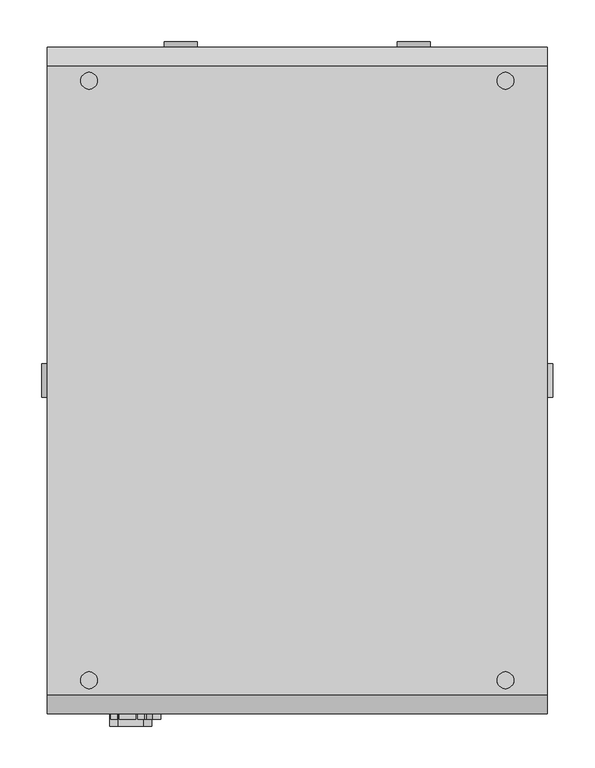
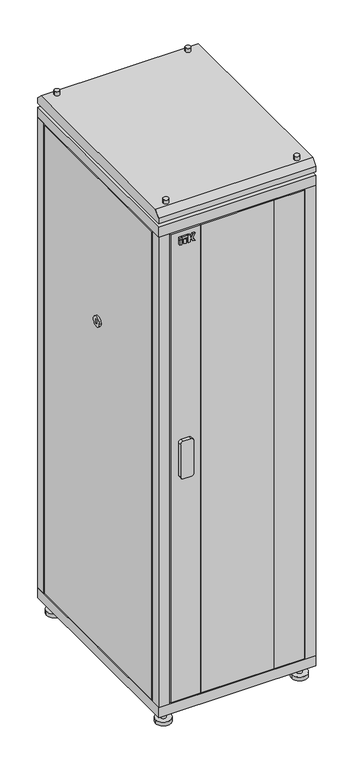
"""IFC4 building model written with IfcOpenShell, lengths in millimetres: proxy geometry, Шкафы ITK серия N_05 : LN05-42U68-G."""

from ifc_helpers import new_model, si_unit, point, frame, frame_2d, origin, origin_with_axes, place, context, project, spatial, polyline, circle_curve, trimmed, segment, composite_curve, outline, extrude, faceted_brep, source, transform, mapped, element, save
from ifc_brep_helpers import plane_surface, cylinder_surface, advanced_brep


def electrical_fixtures_49b3f98a(model_context):
    return source(origin(), model_context, "Body", "SolidModel", [
        extrude(outline(polyline([(-215.9746193, -407.0), (-224.197592, -407.0), (-224.197592, -400.0), (-215.9746193, -400.0), (-215.9746193, -407.0)])), frame((0.0, 0.0, 1935.0), z_axis=(0.0, 0.0, 1.0), x_axis=(1.0, 0.0, 0.0)), (0.0, 0.0, 1.0), 18.8087618),
        extrude(outline(polyline([(-199.9605777, -407.0), (-207.7053315, -407.0), (-207.7053315, -400.0), (-199.9605777, -400.0), (-199.9605777, -407.0)])), frame((0.0, 0.0, 1935.0), z_axis=(0.0, 0.0, 1.0), x_axis=(1.0, 0.0, 0.0)), (0.0, 0.0, 1.0), 18.8087618),
        extrude(outline(polyline([(-215.9746193, -407.0), (-224.197592, -407.0), (-224.197592, -400.0), (-215.9746193, -400.0), (-215.9746193, -407.0)])), frame((0.0, 0.0, 1956.4305892), z_axis=(0.0, 0.0, 1.0), x_axis=(1.0, 0.0, 0.0)), (0.0, 0.0, 1.0), 7.9794747),
        extrude(outline(polyline([(1935.0, -191.5184175), (1935.0, -183.7669278), (1946.0271455, -183.7669278), (1946.0271455, -180.8031229), (1935.0, -173.6420108), (1935.0, -164.197592), (1949.7278745, -174.8980192), (1964.410064, -164.197592), (1964.410064, -173.6420108), (1953.3829184, -180.8031229), (1953.3829184, -183.7669278), (1964.410064, -183.7669278), (1964.410064, -191.5184175), (1935.0, -191.5184175)])), frame((0.0, -407.0, 0.0), z_axis=(0.0, 1.0, 0.0), x_axis=(0.0, 0.0, 1.0)), (0.0, 0.0, 1.0), 7.0),
        extrude(outline(polyline([(-194.0851324, -407.0), (-213.5807768, -407.0), (-213.5807768, -400.0), (-194.0851324, -400.0), (-194.0851324, -407.0)])), frame((0.0, 0.0, 1956.4305892), z_axis=(0.0, 0.0, 1.0), x_axis=(1.0, 0.0, 0.0)), (0.0, 0.0, 1.0), 7.9794747),
        extrude(outline(composite_curve([segment(polyline([(1145.0, -185.0), (1145.0, -215.0)]), True, "CONTINUOUS"), segment(trimmed(circle_curve(frame_2d((1135.0, -215.0)), 10.0), [point((1145.0, -215.0))], [point((1135.0, -225.0))], False, "CARTESIAN"), True, "CONTINUOUS"), segment(polyline([(1135.0, -225.0), (1005.0, -225.0)]), True, "CONTINUOUS"), segment(trimmed(circle_curve(frame_2d((1005.0, -215.0)), 10.0), [point((1005.0, -225.0))], [point((995.0, -215.0))], False, "CARTESIAN"), True, "CONTINUOUS"), segment(polyline([(995.0, -215.0), (995.0, -185.0)]), True, "CONTINUOUS"), segment(trimmed(circle_curve(frame_2d((1005.0, -185.0)), 10.0), [point((995.0, -185.0))], [point((1005.0, -175.0))], False, "CARTESIAN"), True, "CONTINUOUS"), segment(polyline([(1005.0, -175.0), (1135.0, -175.0)]), True, "CONTINUOUS"), segment(trimmed(circle_curve(frame_2d((1135.0, -185.0)), 10.0), [point((1135.0, -175.0))], [point((1145.0, -185.0))], False, "CARTESIAN"), True, "CONTINUOUS")], self_intersect=False)), frame((0.0, -415.0, 0.0), z_axis=(0.0, 1.0, 0.0), x_axis=(0.0, 0.0, 1.0)), (0.0, 0.0, 1.0), 15.0),
        extrude(outline(polyline([(140.0, -380.0), (140.0, -400.0), (-140.0, -400.0), (-140.0, -380.0), (140.0, -380.0)])), frame((0.0, 0.0, 95.0), z_axis=(0.0, 0.0, 1.0), x_axis=(1.0, 0.0, 0.0)), (0.0, 0.0, 1.0), 1890.0),
        extrude(outline(polyline([(255.0, -380.0), (255.0, -400.0), (140.0, -400.0), (140.0, -380.0), (235.0, -380.0), (235.0, -365.0), (245.0, -365.0), (245.0, -380.0), (255.0, -380.0)])), frame((0.0, 0.0, 95.0), z_axis=(0.0, 0.0, 1.0), x_axis=(1.0, 0.0, 0.0)), (0.0, 0.0, 1.0), 1890.0),
        extrude(outline(polyline([(-140.0, -400.0), (-255.0, -400.0), (-255.0, -380.0), (-245.0, -380.0), (-245.0, -365.0), (-235.0, -365.0), (-235.0, -380.0), (-140.0, -380.0), (-140.0, -400.0)])), frame((0.0, 0.0, 95.0), z_axis=(0.0, 0.0, 1.0), x_axis=(1.0, 0.0, 0.0)), (0.0, 0.0, 1.0), 1890.0),
        extrude(outline(composite_curve([segment(trimmed(circle_curve(frame_2d((-260.0, 360.0)), 10.0), [point((-250.0, 360.0))], [point((-270.0, 360.0))], False, "CARTESIAN"), True, "CONTINUOUS"), segment(trimmed(circle_curve(frame_2d((-260.0, 360.0)), 10.0), [point((-270.0, 360.0))], [point((-250.0, 360.0))], False, "CARTESIAN"), True, "CONTINUOUS")], self_intersect=False)), frame((0.0, 0.0, 15.0), z_axis=(0.0, 0.0, 1.0), x_axis=(1.0, 0.0, 0.0)), (0.0, 0.0, 1.0), 35.0),
        extrude(outline(composite_curve([segment(trimmed(circle_curve(frame_2d((260.0, 360.0)), 10.0), [point((270.0, 360.0))], [point((250.0, 360.0))], False, "CARTESIAN"), True, "CONTINUOUS"), segment(trimmed(circle_curve(frame_2d((260.0, 360.0)), 10.0), [point((250.0, 360.0))], [point((270.0, 360.0))], False, "CARTESIAN"), True, "CONTINUOUS")], self_intersect=False)), frame((0.0, 0.0, 15.0), z_axis=(0.0, 0.0, 1.0), x_axis=(1.0, 0.0, 0.0)), (0.0, 0.0, 1.0), 35.0),
        extrude(outline(composite_curve([segment(trimmed(circle_curve(frame_2d((-260.0, -360.0)), 10.0), [point((-250.0, -360.0))], [point((-270.0, -360.0))], False, "CARTESIAN"), True, "CONTINUOUS"), segment(trimmed(circle_curve(frame_2d((-260.0, -360.0)), 10.0), [point((-270.0, -360.0))], [point((-250.0, -360.0))], False, "CARTESIAN"), True, "CONTINUOUS")], self_intersect=False)), frame((0.0, 0.0, 15.0), z_axis=(0.0, 0.0, 1.0), x_axis=(1.0, 0.0, 0.0)), (0.0, 0.0, 1.0), 35.0),
        extrude(outline(composite_curve([segment(trimmed(circle_curve(frame_2d((260.0, -360.0)), 10.0), [point((270.0, -360.0))], [point((250.0, -360.0))], False, "CARTESIAN"), True, "CONTINUOUS"), segment(trimmed(circle_curve(frame_2d((260.0, -360.0)), 10.0), [point((250.0, -360.0))], [point((270.0, -360.0))], False, "CARTESIAN"), True, "CONTINUOUS")], self_intersect=False)), frame((0.0, 0.0, 15.0), z_axis=(0.0, 0.0, 1.0), x_axis=(1.0, 0.0, 0.0)), (0.0, 0.0, 1.0), 35.0),
        extrude(outline(composite_curve([segment(trimmed(circle_curve(frame_2d((-260.0, 360.0)), 30.0), [point((-230.0, 360.0))], [point((-290.0, 360.0))], False, "CARTESIAN"), True, "CONTINUOUS"), segment(trimmed(circle_curve(frame_2d((-260.0, 360.0)), 30.0), [point((-290.0, 360.0))], [point((-230.0, 360.0))], False, "CARTESIAN"), True, "CONTINUOUS")], self_intersect=False)), origin_with_axes(), (0.0, 0.0, 1.0), 15.0),
        extrude(outline(composite_curve([segment(trimmed(circle_curve(frame_2d((260.0, 360.0)), 30.0), [point((290.0, 360.0))], [point((230.0, 360.0))], False, "CARTESIAN"), True, "CONTINUOUS"), segment(trimmed(circle_curve(frame_2d((260.0, 360.0)), 30.0), [point((230.0, 360.0))], [point((290.0, 360.0))], False, "CARTESIAN"), True, "CONTINUOUS")], self_intersect=False)), origin_with_axes(), (0.0, 0.0, 1.0), 15.0),
        extrude(outline(composite_curve([segment(trimmed(circle_curve(frame_2d((-260.0, -360.0)), 30.0), [point((-230.0, -360.0))], [point((-290.0, -360.0))], False, "CARTESIAN"), True, "CONTINUOUS"), segment(trimmed(circle_curve(frame_2d((-260.0, -360.0)), 30.0), [point((-290.0, -360.0))], [point((-230.0, -360.0))], False, "CARTESIAN"), True, "CONTINUOUS")], self_intersect=False)), origin_with_axes(), (0.0, 0.0, 1.0), 15.0),
        extrude(outline(composite_curve([segment(trimmed(circle_curve(frame_2d((260.0, -360.0)), 30.0), [point((290.0, -360.0))], [point((230.0, -360.0))], False, "CARTESIAN"), True, "CONTINUOUS"), segment(trimmed(circle_curve(frame_2d((260.0, -360.0)), 30.0), [point((230.0, -360.0))], [point((290.0, -360.0))], False, "CARTESIAN"), True, "CONTINUOUS")], self_intersect=False)), origin_with_axes(), (0.0, 0.0, 1.0), 15.0),
        advanced_brep(
        [(260.0, 360.0, 2105.0), (240.0, 360.0, 2105.0), (260.0, -360.0, 2105.0), (240.0, -360.0, 2105.0), (-240.0, 360.0, 2105.0), (-260.0, 360.0, 2105.0), (-240.0, -360.0, 2105.0), (-260.0, -360.0, 2105.0), (260.0, 360.0, 2030.0), (240.0, 360.0, 2030.0), (260.0, -360.0, 2030.0), (240.0, -360.0, 2030.0), (-240.0, 360.0, 2030.0), (-260.0, 360.0, 2030.0), (-240.0, -360.0, 2030.0), (-260.0, -360.0, 2030.0), (260.0, 360.0, 2090.0), (240.0, 360.0, 2090.0), (240.0, 360.0, 2045.0), (260.0, 360.0, 2045.0), (260.0, -360.0, 2090.0), (240.0, -360.0, 2090.0), (240.0, -360.0, 2045.0), (260.0, -360.0, 2045.0), (-240.0, 360.0, 2090.0), (-260.0, 360.0, 2090.0), (-260.0, 360.0, 2045.0), (-240.0, 360.0, 2045.0), (-240.0, -360.0, 2090.0), (-260.0, -360.0, 2090.0), (-260.0, -360.0, 2045.0), (-240.0, -360.0, 2045.0), (300.0, 377.5, 2090.0), (300.0, -377.5, 2090.0), (300.0, -400.0, 2067.5), (300.0, -400.0, 2045.0), (300.0, 400.0, 2045.0), (300.0, 400.0, 2067.5), (-300.0, 377.5, 2090.0), (-300.0, 400.0, 2067.5), (-300.0, 400.0, 2045.0), (-300.0, -400.0, 2045.0), (-300.0, -400.0, 2067.5), (-300.0, -377.5, 2090.0)],
        [
            (0, 1, circle_curve(frame((250.0, 360.0, 2105.0), z_axis=(0.0, 0.0, 1.0), x_axis=(-1.0, 0.0, 0.0)), 10.0)),
            (1, 0, circle_curve(frame((250.0, 360.0, 2105.0), z_axis=(0.0, 0.0, 1.0), x_axis=(-1.0, 0.0, 0.0)), 10.0)),
            (2, 3, circle_curve(frame((250.0, -360.0, 2105.0), z_axis=(0.0, 0.0, 1.0), x_axis=(-1.0, 0.0, 0.0)), 10.0)),
            (3, 2, circle_curve(frame((250.0, -360.0, 2105.0), z_axis=(0.0, 0.0, 1.0), x_axis=(-1.0, 0.0, 0.0)), 10.0)),
            (4, 5, circle_curve(frame((-250.0, 360.0, 2105.0), z_axis=(0.0, 0.0, 1.0), x_axis=(-1.0, 0.0, 0.0)), 10.0)),
            (5, 4, circle_curve(frame((-250.0, 360.0, 2105.0), z_axis=(0.0, 0.0, 1.0), x_axis=(-1.0, 0.0, 0.0)), 10.0)),
            (6, 7, circle_curve(frame((-250.0, -360.0, 2105.0), z_axis=(0.0, 0.0, 1.0), x_axis=(-1.0, 0.0, 0.0)), 10.0)),
            (7, 6, circle_curve(frame((-250.0, -360.0, 2105.0), z_axis=(0.0, 0.0, 1.0), x_axis=(-1.0, 0.0, 0.0)), 10.0)),
            (8, 9, circle_curve(frame((250.0, 360.0, 2030.0), z_axis=(0.0, 0.0, -1.0), x_axis=(-1.0, 0.0, 0.0)), 10.0)),
            (9, 8, circle_curve(frame((250.0, 360.0, 2030.0), z_axis=(0.0, 0.0, -1.0), x_axis=(-1.0, 0.0, 0.0)), 10.0)),
            (10, 11, circle_curve(frame((250.0, -360.0, 2030.0), z_axis=(0.0, 0.0, -1.0), x_axis=(-1.0, 0.0, 0.0)), 10.0)),
            (11, 10, circle_curve(frame((250.0, -360.0, 2030.0), z_axis=(0.0, 0.0, -1.0), x_axis=(-1.0, 0.0, 0.0)), 10.0)),
            (12, 13, circle_curve(frame((-250.0, 360.0, 2030.0), z_axis=(0.0, 0.0, -1.0), x_axis=(-1.0, 0.0, 0.0)), 10.0)),
            (13, 12, circle_curve(frame((-250.0, 360.0, 2030.0), z_axis=(0.0, 0.0, -1.0), x_axis=(-1.0, 0.0, 0.0)), 10.0)),
            (14, 15, circle_curve(frame((-250.0, -360.0, 2030.0), z_axis=(0.0, 0.0, -1.0), x_axis=(-1.0, 0.0, 0.0)), 10.0)),
            (15, 14, circle_curve(frame((-250.0, -360.0, 2030.0), z_axis=(0.0, 0.0, -1.0), x_axis=(-1.0, 0.0, 0.0)), 10.0)),
            (0, 16),
            (16, 17, circle_curve(frame((250.0, 360.0, 2090.0), z_axis=(0.0, 0.0, 1.0), x_axis=(-1.0, 0.0, 0.0)), 10.0)),
            (17, 1),
            (9, 18),
            (18, 19, circle_curve(frame((250.0, 360.0, 2045.0), z_axis=(0.0, 0.0, -1.0), x_axis=(-1.0, 0.0, 0.0)), 10.0)),
            (19, 8),
            (17, 16, circle_curve(frame((250.0, 360.0, 2090.0), z_axis=(0.0, 0.0, 1.0), x_axis=(-1.0, 0.0, 0.0)), 10.0)),
            (19, 18, circle_curve(frame((250.0, 360.0, 2045.0), z_axis=(0.0, 0.0, -1.0), x_axis=(-1.0, 0.0, 0.0)), 10.0)),
            (2, 20),
            (20, 21, circle_curve(frame((250.0, -360.0, 2090.0), z_axis=(0.0, 0.0, 1.0), x_axis=(-1.0, 0.0, 0.0)), 10.0)),
            (21, 3),
            (11, 22),
            (22, 23, circle_curve(frame((250.0, -360.0, 2045.0), z_axis=(0.0, 0.0, -1.0), x_axis=(-1.0, 0.0, 0.0)), 10.0)),
            (23, 10),
            (21, 20, circle_curve(frame((250.0, -360.0, 2090.0), z_axis=(0.0, 0.0, 1.0), x_axis=(-1.0, 0.0, 0.0)), 10.0)),
            (23, 22, circle_curve(frame((250.0, -360.0, 2045.0), z_axis=(0.0, 0.0, -1.0), x_axis=(-1.0, 0.0, 0.0)), 10.0)),
            (4, 24),
            (24, 25, circle_curve(frame((-250.0, 360.0, 2090.0), z_axis=(0.0, 0.0, 1.0), x_axis=(-1.0, 0.0, 0.0)), 10.0)),
            (25, 5),
            (13, 26),
            (26, 27, circle_curve(frame((-250.0, 360.0, 2045.0), z_axis=(0.0, 0.0, -1.0), x_axis=(-1.0, 0.0, 0.0)), 10.0)),
            (27, 12),
            (25, 24, circle_curve(frame((-250.0, 360.0, 2090.0), z_axis=(0.0, 0.0, 1.0), x_axis=(-1.0, 0.0, 0.0)), 10.0)),
            (27, 26, circle_curve(frame((-250.0, 360.0, 2045.0), z_axis=(0.0, 0.0, -1.0), x_axis=(-1.0, 0.0, 0.0)), 10.0)),
            (6, 28),
            (28, 29, circle_curve(frame((-250.0, -360.0, 2090.0), z_axis=(0.0, 0.0, 1.0), x_axis=(-1.0, 0.0, 0.0)), 10.0)),
            (29, 7),
            (15, 30),
            (30, 31, circle_curve(frame((-250.0, -360.0, 2045.0), z_axis=(0.0, 0.0, -1.0), x_axis=(-1.0, 0.0, 0.0)), 10.0)),
            (31, 14),
            (29, 28, circle_curve(frame((-250.0, -360.0, 2090.0), z_axis=(0.0, 0.0, 1.0), x_axis=(-1.0, 0.0, 0.0)), 10.0)),
            (31, 30, circle_curve(frame((-250.0, -360.0, 2045.0), z_axis=(0.0, 0.0, -1.0), x_axis=(-1.0, 0.0, 0.0)), 10.0)),
            (32, 33),
            (33, 34),
            (34, 35),
            (35, 36),
            (36, 37),
            (37, 32),
            (38, 39),
            (39, 40),
            (40, 41),
            (41, 42),
            (42, 43),
            (43, 38),
            (32, 38),
            (43, 33),
            (42, 34),
            (41, 35),
            (40, 36),
            (39, 37),
        ],
        [
            plane_surface(frame((240.0, 360.0, 2105.0), z_axis=(0.0, 0.0, 1.0), x_axis=(0.0, -1.0, 0.0))),
            plane_surface(frame((240.0, 360.0, 2030.0), z_axis=(0.0, 0.0, -1.0), x_axis=(0.0, 1.0, 0.0))),
            cylinder_surface(frame((250.0, 360.0, 2030.0), z_axis=(0.0, 0.0, 1.0), x_axis=(-1.0, 0.0, 0.0)), 10.0),
            cylinder_surface(frame((250.0, -360.0, 1710.0), z_axis=(0.0, 0.0, 1.0), x_axis=(-1.0, 0.0, 0.0)), 10.0),
            cylinder_surface(frame((-250.0, 360.0, 1710.0), z_axis=(0.0, 0.0, 1.0), x_axis=(-1.0, 0.0, 0.0)), 10.0),
            cylinder_surface(frame((-250.0, -360.0, 1710.0), z_axis=(0.0, 0.0, 1.0), x_axis=(-1.0, 0.0, 0.0)), 10.0),
            plane_surface(frame((300.0, -377.5, 2090.0), z_axis=(1.0, 0.0, 0.0), x_axis=(0.0, -1.0, 0.0))),
            plane_surface(frame((-300.0, -377.5, 2090.0), z_axis=(-1.0, 0.0, 0.0), x_axis=(0.0, 1.0, 0.0))),
            plane_surface(frame((300.0, 377.5, 2090.0), z_axis=(0.0, 0.0, 1.0), x_axis=(-1.0, 0.0, 0.0))),
            plane_surface(frame((300.0, -377.5, 2090.0), z_axis=(0.0, -0.7071067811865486, 0.7071067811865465), x_axis=(-1.0, 0.0, 0.0))),
            plane_surface(frame((300.0, -400.0, 2067.5), z_axis=(0.0, -1.0, 0.0), x_axis=(-1.0, 0.0, 0.0))),
            plane_surface(frame((300.0, -400.0, 2045.0), z_axis=(0.0, 0.0, -1.0), x_axis=(-1.0, 0.0, 0.0))),
            plane_surface(frame((300.0, 400.0, 2045.0), z_axis=(0.0, 1.0, 0.0), x_axis=(-1.0, 0.0, 0.0))),
            plane_surface(frame((300.0, 400.0, 2067.5), z_axis=(0.0, 0.7071067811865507, 0.7071067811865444), x_axis=(-1.0, 0.0, 0.0))),
        ],
        [
            (0, [[1, 2]]),
            (0, [[3, 4]]),
            (0, [[5, 6]]),
            (0, [[7, 8]]),
            (1, [[9, 10]]),
            (1, [[11, 12]]),
            (1, [[13, 14]]),
            (1, [[15, 16]]),
            (2, [[-1, 17, 18, 19]]),
            (2, [[-10, 20, 21, 22]]),
            (2, [[-2, -19, 23, -17]]),
            (2, [[-9, -22, 24, -20]]),
            (3, [[-3, 25, 26, 27]]),
            (3, [[-12, 28, 29, 30]]),
            (3, [[-4, -27, 31, -25]]),
            (3, [[-11, -30, 32, -28]]),
            (4, [[-5, 33, 34, 35]]),
            (4, [[-14, 36, 37, 38]]),
            (4, [[-6, -35, 39, -33]]),
            (4, [[-13, -38, 40, -36]]),
            (5, [[-7, 41, 42, 43]]),
            (5, [[-16, 44, 45, 46]]),
            (5, [[-8, -43, 47, -41]]),
            (5, [[-15, -46, 48, -44]]),
            (6, [[49, 50, 51, 52, 53, 54]]),
            (7, [[55, 56, 57, 58, 59, 60]]),
            (8, [[-49, 61, -60, 62], [-18, -23], [-26, -31], [-34, -39], [-42, -47]]),
            (9, [[-50, -62, -59, 63]]),
            (10, [[-51, -63, -58, 64]]),
            (11, [[-52, -64, -57, 65], [-21, -24], [-29, -32], [-37, -40], [-45, -48]]),
            (12, [[-53, -65, -56, 66]]),
            (13, [[-54, -66, -55, -61]]),
        ],
    ),
        extrude(outline(polyline([(260.0, 360.0), (260.0, 345.0), (290.0, 345.0), (290.0, -345.0), (260.0, -345.0), (260.0, -360.0), (245.0, -360.0), (245.0, -380.0), (-245.0, -380.0), (-245.0, -360.0), (-260.0, -360.0), (-260.0, -345.0), (-290.0, -345.0), (-290.0, 345.0), (-260.0, 345.0), (-260.0, 360.0), (-245.0, 360.0), (-245.0, 390.0), (245.0, 390.0), (245.0, 360.0), (260.0, 360.0)])), frame((0.0, 0.0, 90.0), z_axis=(0.0, 0.0, 1.0), x_axis=(1.0, 0.0, 0.0)), (0.0, 0.0, 1.0), 5.0),
        extrude(outline(polyline([(260.0, 360.0), (260.0, 345.0), (290.0, 345.0), (290.0, -345.0), (260.0, -345.0), (260.0, -360.0), (245.0, -360.0), (245.0, -380.0), (-245.0, -380.0), (-245.0, -360.0), (-260.0, -360.0), (-260.0, -345.0), (-290.0, -345.0), (-290.0, 345.0), (-260.0, 345.0), (-260.0, 360.0), (-245.0, 360.0), (-245.0, 390.0), (245.0, 390.0), (245.0, 360.0), (260.0, 360.0)])), frame((0.0, 0.0, 1985.0), z_axis=(0.0, 0.0, 1.0), x_axis=(1.0, 0.0, 0.0)), (0.0, 0.0, 1.0), 5.0),
        extrude(outline(polyline([(300.0, -400.0), (-300.0, -400.0), (-300.0, 400.0), (300.0, 400.0), (300.0, -400.0)])), frame((0.0, 0.0, 1990.0), z_axis=(0.0, 0.0, 1.0), x_axis=(1.0, 0.0, 0.0)), (0.0, 0.0, 1.0), 40.0),
        extrude(outline(polyline([(300.0, -400.0), (-300.0, -400.0), (-300.0, 400.0), (300.0, 400.0), (300.0, -400.0)])), frame((0.0, 0.0, 50.0), z_axis=(0.0, 0.0, 1.0), x_axis=(1.0, 0.0, 0.0)), (0.0, 0.0, 1.0), 40.0),
        extrude(outline(composite_curve([segment(trimmed(circle_curve(frame_2d((1040.0, 140.0)), 20.0), [point((1040.0, 160.0))], [point((1040.0, 120.0))], False, "CARTESIAN"), True, "CONTINUOUS"), segment(trimmed(circle_curve(frame_2d((1040.0, 140.0)), 20.0), [point((1040.0, 120.0))], [point((1040.0, 160.0))], False, "CARTESIAN"), True, "CONTINUOUS")], self_intersect=False), holes=[polyline([(1031.7814397, 137.0), (1048.2185603, 137.0), (1048.2185603, 143.0), (1031.7814397, 143.0), (1031.7814397, 137.0)])]), frame((0.0, 400.0, 0.0), z_axis=(0.0, 1.0, 0.0), x_axis=(0.0, 0.0, 1.0)), (0.0, 0.0, 1.0), 7.0),
        extrude(outline(composite_curve([segment(trimmed(circle_curve(frame_2d((1040.0, -140.0)), 20.0), [point((1040.0, -120.0))], [point((1040.0, -160.0))], False, "CARTESIAN"), True, "CONTINUOUS"), segment(trimmed(circle_curve(frame_2d((1040.0, -140.0)), 20.0), [point((1040.0, -160.0))], [point((1040.0, -120.0))], False, "CARTESIAN"), True, "CONTINUOUS")], self_intersect=False), holes=[polyline([(1031.7814397, -143.0), (1048.2185603, -143.0), (1048.2185603, -137.0), (1031.7814397, -137.0), (1031.7814397, -143.0)])]), frame((0.0, 400.0, 0.0), z_axis=(0.0, 1.0, 0.0), x_axis=(0.0, 0.0, 1.0)), (0.0, 0.0, 1.0), 7.0),
        faceted_brep([(255.0, 400.0, 1985.0), (-255.0, 400.0, 1985.0), (-255.0, 370.0, 1985.0), (-245.0, 370.0, 1985.0), (-245.0, 390.0, 1985.0), (245.0, 390.0, 1985.0), (245.0, 370.0, 1985.0), (255.0, 370.0, 1985.0), (255.0, 400.0, 1812.5265979), (-255.0, 400.0, 1812.5265979), (175.0, 400.0, 1860.0), (175.0, 400.0, 1940.0), (-175.0, 400.0, 1940.0), (-175.0, 400.0, 1860.0), (-255.0, 370.0, 1812.5265979), (-245.0, 370.0, 1812.5265979), (-245.0, 390.0, 1812.5265979), (245.0, 390.0, 1812.5265979), (175.0, 390.0, 1940.0), (175.0, 390.0, 1860.0), (-175.0, 390.0, 1860.0), (-175.0, 390.0, 1940.0), (245.0, 370.0, 1812.5265979), (255.0, 370.0, 1812.5265979)], [[[0, 1, 2, 3, 4, 5, 6, 7]], [[1, 0, 8, 9], [10, 11, 12, 13]], [[2, 1, 9, 14]], [[3, 2, 14, 15]], [[4, 3, 15, 16]], [[5, 4, 16, 17], [18, 19, 20, 21]], [[6, 5, 17, 22]], [[7, 6, 22, 23]], [[0, 7, 23, 8]], [[9, 8, 23, 22, 17, 16, 15, 14]], [[10, 19, 18, 11]], [[11, 18, 21, 12]], [[12, 21, 20, 13]], [[19, 10, 13, 20]]]),
        faceted_brep([(255.0, 400.0, 95.0), (255.0, 370.0, 95.0), (245.0, 370.0, 95.0), (245.0, 390.0, 95.0), (-245.0, 390.0, 95.0), (-245.0, 370.0, 95.0), (-255.0, 370.0, 95.0), (-255.0, 400.0, 95.0), (-255.0, 400.0, 267.4734021), (255.0, 400.0, 267.4734021), (175.0, 400.0, 220.0), (-175.0, 400.0, 220.0), (-175.0, 400.0, 140.0), (175.0, 400.0, 140.0), (-255.0, 370.0, 267.4734021), (-245.0, 370.0, 267.4734021), (-245.0, 390.0, 267.4734021), (245.0, 390.0, 267.4734021), (-175.0, 390.0, 220.0), (175.0, 390.0, 220.0), (175.0, 390.0, 140.0), (-175.0, 390.0, 140.0), (245.0, 370.0, 267.4734021), (255.0, 370.0, 267.4734021)], [[[0, 1, 2, 3, 4, 5, 6, 7]], [[0, 7, 8, 9], [10, 11, 12, 13]], [[7, 6, 14, 8]], [[6, 5, 15, 14]], [[5, 4, 16, 15]], [[4, 3, 17, 16], [18, 19, 20, 21]], [[3, 2, 22, 17]], [[2, 1, 23, 22]], [[1, 0, 9, 23]], [[9, 8, 14, 15, 16, 17, 22, 23]], [[10, 19, 18, 11]], [[11, 18, 21, 12]], [[12, 21, 20, 13]], [[19, 10, 13, 20]]]),
        faceted_brep([(255.0, 400.0, 1807.4734021), (255.0, 400.0, 272.5265979), (-255.0, 400.0, 272.5265979), (-255.0, 400.0, 1807.4734021), (-255.0, 370.0, 272.5265979), (-255.0, 370.0, 1807.4734021), (-245.0, 370.0, 272.5265979), (-245.0, 370.0, 1807.4734021), (-245.0, 390.0, 272.5265979), (-245.0, 390.0, 1807.4734021), (245.0, 390.0, 272.5265979), (245.0, 390.0, 1807.4734021), (245.0, 370.0, 272.5265979), (245.0, 370.0, 1807.4734021), (255.0, 370.0, 272.5265979), (255.0, 370.0, 1807.4734021)], [[[0, 1, 2, 3]], [[3, 2, 4, 5]], [[5, 4, 6, 7]], [[7, 6, 8, 9]], [[9, 8, 10, 11]], [[11, 10, 12, 13]], [[13, 12, 14, 15]], [[1, 0, 15, 14]], [[2, 1, 14, 12, 10, 8, 6, 4]], [[0, 3, 5, 7, 9, 11, 13, 15]]]),
        faceted_brep([(-170.0, 400.0, 215.0), (170.0, 400.0, 215.0), (170.0, 400.0, 145.0), (-170.0, 400.0, 145.0), (170.0, 390.0, 215.0), (-170.0, 390.0, 215.0), (-170.0, 390.0, 145.0), (170.0, 390.0, 145.0)], [[[0, 1, 2, 3]], [[4, 5, 6, 7]], [[0, 5, 4, 1]], [[1, 4, 7, 2]], [[2, 7, 6, 3]], [[5, 0, 3, 6]]]),
        faceted_brep([(-170.0, 400.0, 1865.0), (-170.0, 400.0, 1935.0), (170.0, 400.0, 1935.0), (170.0, 400.0, 1865.0), (-170.0, 390.0, 1935.0), (-170.0, 390.0, 1865.0), (170.0, 390.0, 1865.0), (170.0, 390.0, 1935.0)], [[[0, 1, 2, 3]], [[4, 5, 6, 7]], [[0, 5, 4, 1]], [[1, 4, 7, 2]], [[2, 7, 6, 3]], [[5, 0, 3, 6]]]),
        extrude(outline(composite_curve([segment(trimmed(circle_curve(frame_2d((0.0, 1410.0)), 20.0), [point((-20.0, 1410.0))], [point((20.0, 1410.0))], False, "CARTESIAN"), True, "CONTINUOUS"), segment(trimmed(circle_curve(frame_2d((0.0, 1410.0)), 20.0), [point((20.0, 1410.0))], [point((-20.0, 1410.0))], False, "CARTESIAN"), True, "CONTINUOUS")], self_intersect=False), holes=[polyline([(3.0, 1401.7814397), (3.0, 1418.2185603), (-3.0, 1418.2185603), (-3.0, 1401.7814397), (3.0, 1401.7814397)])]), frame((300.0, 0.0, 0.0), z_axis=(1.0, 0.0, 0.0), x_axis=(0.0, 1.0, 0.0)), (0.0, 0.0, 1.0), 7.0),
        extrude(outline(composite_curve([segment(trimmed(circle_curve(frame_2d((0.0, 1410.0)), 20.0), [point((20.0, 1410.0))], [point((-20.0, 1410.0))], False, "CARTESIAN"), True, "CONTINUOUS"), segment(trimmed(circle_curve(frame_2d((0.0, 1410.0)), 20.0), [point((-20.0, 1410.0))], [point((20.0, 1410.0))], False, "CARTESIAN"), True, "CONTINUOUS")], self_intersect=False), holes=[polyline([(-3.0, 1401.7814397), (3.0, 1401.7814397), (3.0, 1418.2185603), (-3.0, 1418.2185603), (-3.0, 1401.7814397)])]), frame((-307.0, 0.0, 0.0), z_axis=(1.0, 0.0, 0.0), x_axis=(0.0, 1.0, 0.0)), (0.0, 0.0, 1.0), 7.0),
        extrude(outline(polyline([(-270.0, 355.0), (-270.0, 345.0), (-289.9803177, 345.0), (-289.9803177, -345.0), (-269.9803177, -345.0), (-269.9803177, -355.0), (-300.0, -355.0), (-300.0, 355.0), (-270.0, 355.0)])), frame((0.0, 0.0, 95.0), z_axis=(0.0, 0.0, 1.0), x_axis=(1.0, 0.0, 0.0)), (0.0, 0.0, 1.0), 1890.0),
        extrude(outline(polyline([(269.9803177, 355.0), (300.0, 355.0), (300.0, -355.0), (269.9803177, -355.0), (269.9803177, -345.0), (289.9803177, -345.0), (289.9803177, 345.0), (269.9803177, 345.0), (269.9803177, 355.0)])), frame((0.0, 0.0, 95.0), z_axis=(0.0, 0.0, 1.0), x_axis=(1.0, 0.0, 0.0)), (0.0, 0.0, 1.0), 1890.0),
        extrude(outline(polyline([(-270.0, -360.0), (-270.0, -345.0), (-260.0, -345.0), (-260.0, -360.0), (-245.0, -360.0), (-245.0, -380.0), (-260.0, -380.0), (-260.0, -400.0), (-300.0, -400.0), (-300.0, -360.0), (-270.0, -360.0)]), holes=[polyline([(-267.0, -363.0), (-297.0, -363.0), (-297.0, -397.0), (-263.0, -397.0), (-263.0, -377.0), (-248.0, -377.0), (-248.0, -363.0), (-263.0, -363.0), (-263.0, -348.0), (-267.0, -348.0), (-267.0, -363.0)])]), frame((0.0, 0.0, 90.0), z_axis=(0.0, 0.0, 1.0), x_axis=(1.0, 0.0, 0.0)), (0.0, 0.0, 1.0), 1900.0),
        extrude(outline(polyline([(270.0, -360.0), (300.0, -360.0), (300.0, -400.0), (260.0, -400.0), (260.0, -380.0), (245.0, -380.0), (245.0, -360.0), (260.0, -360.0), (260.0, -345.0), (270.0, -345.0), (270.0, -360.0)]), holes=[polyline([(297.0, -397.0), (297.0, -363.0), (267.0, -363.0), (267.0, -348.0), (263.0, -348.0), (263.0, -363.0), (248.0, -363.0), (248.0, -377.0), (263.0, -377.0), (263.0, -397.0), (297.0, -397.0)])]), frame((0.0, 0.0, 90.0), z_axis=(0.0, 0.0, 1.0), x_axis=(1.0, 0.0, 0.0)), (0.0, 0.0, 1.0), 1900.0),
        extrude(outline(polyline([(270.0, 360.0), (270.0, 345.0), (260.0, 345.0), (260.0, 360.0), (245.0, 360.0), (245.0, 370.0), (260.0, 370.0), (260.0, 400.0), (300.0, 400.0), (300.0, 360.0), (270.0, 360.0)]), holes=[polyline([(297.0, 363.0), (297.0, 397.0), (263.0, 397.0), (263.0, 367.0), (248.0, 367.0), (248.0, 363.0), (263.0, 363.0), (263.0, 348.0), (267.0, 348.0), (267.0, 363.0), (297.0, 363.0)])]), frame((0.0, 0.0, 90.0), z_axis=(0.0, 0.0, 1.0), x_axis=(1.0, 0.0, 0.0)), (0.0, 0.0, 1.0), 1900.0),
        extrude(outline(polyline([(-270.0, 360.0), (-300.0, 360.0), (-300.0, 400.0), (-260.0, 400.0), (-260.0, 370.0), (-245.0, 370.0), (-245.0, 360.0), (-260.0, 360.0), (-260.0, 345.0), (-270.0, 345.0), (-270.0, 360.0)]), holes=[polyline([(-297.0, 397.0), (-297.0, 363.0), (-267.0, 363.0), (-267.0, 348.0), (-263.0, 348.0), (-263.0, 363.0), (-248.0, 363.0), (-248.0, 367.0), (-263.0, 367.0), (-263.0, 397.0), (-297.0, 397.0)])]), frame((0.0, 0.0, 90.0), z_axis=(0.0, 0.0, 1.0), x_axis=(1.0, 0.0, 0.0)), (0.0, 0.0, 1.0), 1900.0),
    ])


if __name__ == "__main__":
    model = new_model("IFC4")
    model_context = context("Model", 3, world=origin())
    ifc_project = project(units=[si_unit("LENGTHUNIT", "METRE", prefix="MILLI")], contexts=[model_context])
    site = spatial("IfcSite", under=ifc_project)
    building = spatial("IfcBuilding", under=site)
    placement = place(None, origin())
    electrical_fixtures_shape = electrical_fixtures_49b3f98a(model_context)
    element("IfcBuildingElementProxy", 1, Name="Шкафы ITK серия N_05 : LN05-42U68-G", ObjectType="Шкафы ITK серия N_05 : LN05-42U68-G", at=placement, inside=building, context=model_context, shape_type="MappedRepresentation", body=[
        mapped(electrical_fixtures_shape, transform((0.0, 0.0, 0.0), x_axis=(1.0, 0.0, 0.0), y_axis=(0.0, 1.0, 0.0), z_axis=(0.0, 0.0, 1.0))),
    ])
    save(model, "model.ifc")
